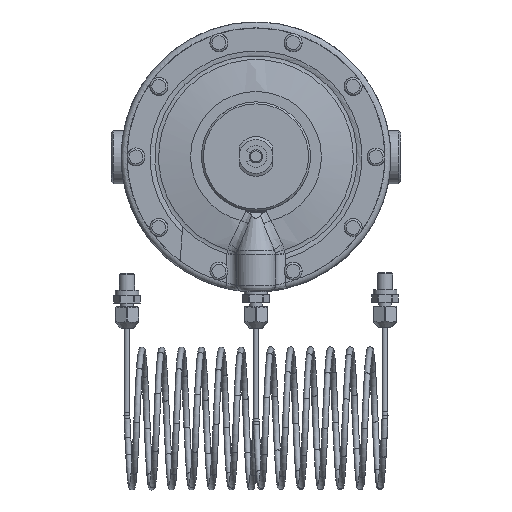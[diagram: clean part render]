
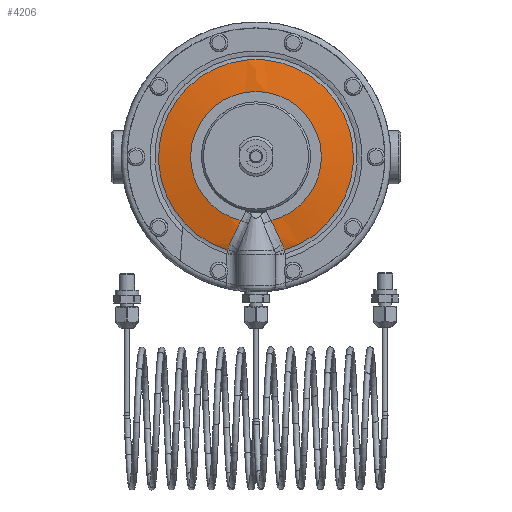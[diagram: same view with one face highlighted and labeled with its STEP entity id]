
A CAD part, top view. The second image highlights one B-rep face of the part: STEP entity #4206.
In plain terms, the highlighted free-form (B-spline) face has degree [3, 3] with [4, 7] control points.
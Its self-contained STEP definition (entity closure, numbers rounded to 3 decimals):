
#172=(
BOUNDED_SURFACE()
B_SPLINE_SURFACE(3,3,((#27723,#27724,#27725,#27726,#27727,#27728,#27729),
(#27730,#27731,#27732,#27733,#27734,#27735,#27736),(#27737,#27738,#27739,
#27740,#27741,#27742,#27743),(#27744,#27745,#27746,#27747,#27748,#27749,
#27750)),.UNSPECIFIED.,.F.,.F.,.F.)
B_SPLINE_SURFACE_WITH_KNOTS((4,4),(4,3,4),(0.,1.),(0.,0.5,1.),.UNSPECIFIED.)
GEOMETRIC_REPRESENTATION_ITEM()
RATIONAL_B_SPLINE_SURFACE(((1.,0.398,0.398,1.,0.398,
0.398,1.),(0.991,0.395,0.395,
0.991,0.395,0.395,0.991),
(0.991,0.395,0.395,0.991,
0.395,0.395,0.991),(1.,0.398,
0.398,1.,0.398,0.398,1.)))
REPRESENTATION_ITEM('')
SURFACE()
);
#2442=CIRCLE('',#18769,32.941);
#2458=CIRCLE('',#18790,49.087);
#3488=B_SPLINE_CURVE_WITH_KNOTS('',3,(#27705,#27706,#27707,#27708),.UNSPECIFIED.,
 .F.,.F.,(4,4),(0.,1.),.UNSPECIFIED.);
#3489=B_SPLINE_CURVE_WITH_KNOTS('',3,(#27710,#27711,#27712,#27713),.UNSPECIFIED.,
 .F.,.F.,(4,4),(0.,1.),.UNSPECIFIED.);
#3490=B_SPLINE_CURVE_WITH_KNOTS('',3,(#27714,#27715,#27716,#27717),.UNSPECIFIED.,
 .F.,.F.,(4,4),(0.,1.),.UNSPECIFIED.);
#3491=B_SPLINE_CURVE_WITH_KNOTS('',3,(#27719,#27720,#27721,#27722),.UNSPECIFIED.,
 .F.,.F.,(4,4),(0.,1.),.UNSPECIFIED.);
#4206=ADVANCED_FACE('',(#5713),#172,.T.);
#5713=FACE_OUTER_BOUND('',#6675,.T.);
#6675=EDGE_LOOP('',(#8875,#8876,#8877,#8878,#8879,#8880));
#8875=ORIENTED_EDGE('',*,*,#15091,.T.);
#8876=ORIENTED_EDGE('',*,*,#15092,.T.);
#8877=ORIENTED_EDGE('',*,*,#15093,.T.);
#8878=ORIENTED_EDGE('',*,*,#15054,.T.);
#8879=ORIENTED_EDGE('',*,*,#15094,.T.);
#8880=ORIENTED_EDGE('',*,*,#15095,.T.);
#13281=VERTEX_POINT('',#27497);
#13282=VERTEX_POINT('',#27499);
#13312=VERTEX_POINT('',#27703);
#13313=VERTEX_POINT('',#27704);
#13314=VERTEX_POINT('',#27709);
#13315=VERTEX_POINT('',#27718);
#15054=EDGE_CURVE('',#13282,#13281,#2442,.T.);
#15091=EDGE_CURVE('',#13312,#13313,#2458,.T.);
#15092=EDGE_CURVE('',#13313,#13314,#3488,.T.);
#15093=EDGE_CURVE('',#13314,#13282,#3489,.T.);
#15094=EDGE_CURVE('',#13281,#13315,#3490,.T.);
#15095=EDGE_CURVE('',#13315,#13312,#3491,.T.);
#18769=AXIS2_PLACEMENT_3D('',#27498,#21572,#21573);
#18790=AXIS2_PLACEMENT_3D('',#27702,#21622,#21623);
#21572=DIRECTION('',(0.,0.,-1.));
#21573=DIRECTION('',(-1.,0.,0.));
#21622=DIRECTION('',(0.,0.,1.));
#21623=DIRECTION('',(-1.,0.,0.));
#27497=CARTESIAN_POINT('',(7.52,-32.071,100.));
#27498=CARTESIAN_POINT('',(0.,0.,100.));
#27499=CARTESIAN_POINT('',(-7.52,-32.071,100.));
#27702=CARTESIAN_POINT('',(0.,0.,97.321));
#27703=CARTESIAN_POINT('',(14.207,-46.986,97.321));
#27704=CARTESIAN_POINT('',(-14.207,-46.986,97.321));
#27705=CARTESIAN_POINT('',(-14.207,-46.986,97.321));
#27706=CARTESIAN_POINT('',(-14.1,-45.982,97.66));
#27707=CARTESIAN_POINT('',(-13.828,-45.014,97.968));
#27708=CARTESIAN_POINT('',(-13.389,-44.083,98.245));
#27709=CARTESIAN_POINT('',(-13.389,-44.083,98.245));
#27710=CARTESIAN_POINT('',(-13.389,-44.083,98.245));
#27711=CARTESIAN_POINT('',(-11.521,-40.123,99.424));
#27712=CARTESIAN_POINT('',(-9.483,-36.158,100.));
#27713=CARTESIAN_POINT('',(-7.52,-32.071,100.));
#27714=CARTESIAN_POINT('',(7.52,-32.071,100.));
#27715=CARTESIAN_POINT('',(9.483,-36.158,100.));
#27716=CARTESIAN_POINT('',(11.521,-40.123,99.424));
#27717=CARTESIAN_POINT('',(13.389,-44.083,98.245));
#27718=CARTESIAN_POINT('',(13.389,-44.083,98.245));
#27719=CARTESIAN_POINT('',(13.389,-44.083,98.245));
#27720=CARTESIAN_POINT('',(13.828,-45.014,97.968));
#27721=CARTESIAN_POINT('',(14.1,-45.982,97.66));
#27722=CARTESIAN_POINT('',(14.207,-46.986,97.321));
#27723=CARTESIAN_POINT('',(-9.53,-48.153,97.321));
#27724=CARTESIAN_POINT('',(-89.731,-32.28,97.321));
#27725=CARTESIAN_POINT('',(-81.757,49.087,97.321));
#27726=CARTESIAN_POINT('',(0.,49.087,97.321));
#27727=CARTESIAN_POINT('',(81.757,49.087,97.321));
#27728=CARTESIAN_POINT('',(89.731,-32.28,97.321));
#27729=CARTESIAN_POINT('',(9.53,-48.153,97.321));
#27730=CARTESIAN_POINT('',(-8.519,-43.042,99.099));
#27731=CARTESIAN_POINT('',(-80.207,-28.854,99.099));
#27732=CARTESIAN_POINT('',(-73.079,43.877,99.099));
#27733=CARTESIAN_POINT('',(0.,43.877,99.099));
#27734=CARTESIAN_POINT('',(73.079,43.877,99.099));
#27735=CARTESIAN_POINT('',(80.207,-28.854,99.099));
#27736=CARTESIAN_POINT('',(8.519,-43.042,99.099));
#27737=CARTESIAN_POINT('',(-7.464,-37.715,100.));
#27738=CARTESIAN_POINT('',(-70.28,-25.283,100.));
#27739=CARTESIAN_POINT('',(-64.034,38.446,100.));
#27740=CARTESIAN_POINT('',(0.,38.446,100.));
#27741=CARTESIAN_POINT('',(64.034,38.446,100.));
#27742=CARTESIAN_POINT('',(70.28,-25.283,100.));
#27743=CARTESIAN_POINT('',(7.464,-37.715,100.));
#27744=CARTESIAN_POINT('',(-6.395,-32.314,100.));
#27745=CARTESIAN_POINT('',(-60.217,-21.662,100.));
#27746=CARTESIAN_POINT('',(-54.865,32.941,100.));
#27747=CARTESIAN_POINT('',(0.,32.941,100.));
#27748=CARTESIAN_POINT('',(54.865,32.941,100.));
#27749=CARTESIAN_POINT('',(60.217,-21.662,100.));
#27750=CARTESIAN_POINT('',(6.395,-32.314,100.));
